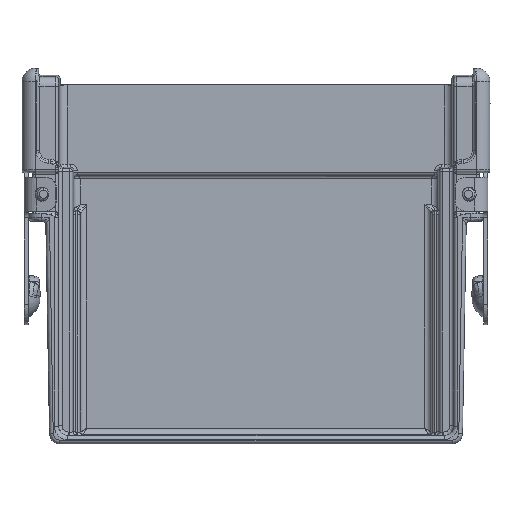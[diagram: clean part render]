
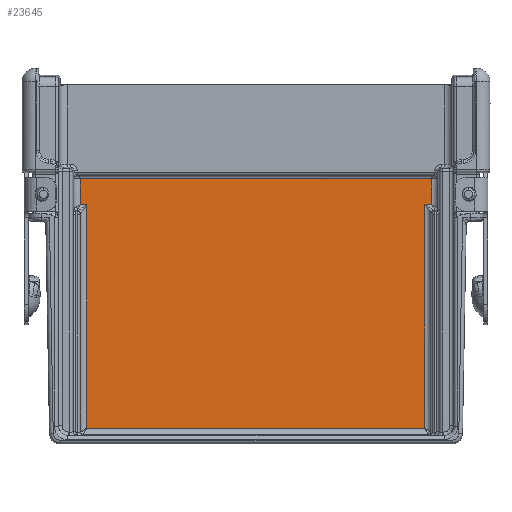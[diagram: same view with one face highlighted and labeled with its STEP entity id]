
A CAD part, left-side view. The second image highlights one B-rep face of the part: STEP entity #23645.
In plain terms, the highlighted planar face has unit normal (-1, 0, 0).
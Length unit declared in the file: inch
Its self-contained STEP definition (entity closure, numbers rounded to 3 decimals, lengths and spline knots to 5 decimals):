
#4342=CARTESIAN_POINT('',(0.363,1.30291,1.77165));
#4365=DIRECTION('',(0.,1.,0.));
#4366=VECTOR('',#4365,0.04906);
#4367=CARTESIAN_POINT('',(0.363,1.25385,1.77165));
#4368=LINE('',#4367,#4366);
#4369=CARTESIAN_POINT('',(0.363,1.25385,1.77165));
#4395=DIRECTION('',(0.,0.,1.));
#4396=VECTOR('',#4395,1.65796);
#4397=CARTESIAN_POINT('',(0.363,1.25385,0.11369));
#4398=LINE('',#4397,#4396);
#4407=DIRECTION('',(0.,0.,1.));
#4408=VECTOR('',#4407,0.19235);
#4409=CARTESIAN_POINT('',(0.363,1.30291,1.77165));
#4410=LINE('',#4409,#4408);
#7251=CARTESIAN_POINT('',(0.363,-1.25255,0.11369));
#7280=DIRECTION('',(0.,0.,-1.));
#7281=VECTOR('',#7280,1.65927);
#7282=CARTESIAN_POINT('',(0.363,-1.25255,
1.77295));
#7283=LINE('',#7282,#7281);
#7288=CARTESIAN_POINT('',(0.363,-1.25255,
1.77295));
#7318=DIRECTION('',(0.,1.,0.));
#7319=VECTOR('',#7318,0.05036);
#7320=CARTESIAN_POINT('',(0.363,-1.30291,1.77295));
#7321=LINE('',#7320,#7319);
#7332=CARTESIAN_POINT('',(0.363,-1.30291,1.77295));
#7351=DIRECTION('',(0.,0.,-1.));
#7352=VECTOR('',#7351,0.19104);
#7353=CARTESIAN_POINT('',(0.363,-1.30296,
1.964));
#7354=LINE('',#7353,#7352);
#7355=CARTESIAN_POINT('',(0.363,-1.30296,
1.964));
#7406=DIRECTION('',(0.,-1.,0.));
#7407=VECTOR('',#7406,2.60595);
#7408=CARTESIAN_POINT('',(0.363,1.30299,1.964));
#7409=LINE('',#7408,#7407);
#7749=DIRECTION('',(0.,1.,0.));
#7750=VECTOR('',#7749,2.5064);
#7751=CARTESIAN_POINT('',(0.363,-1.25255,0.11369));
#7752=LINE('',#7751,#7750);
#7945=CARTESIAN_POINT('',(0.363,1.25385,0.11369));
#14513=VERTEX_POINT('',#7355);
#14516=VERTEX_POINT('',#7251);
#14533=VERTEX_POINT('',#7332);
#14551=VERTEX_POINT('',#7288);
#14554=VERTEX_POINT('',#4369);
#14572=VERTEX_POINT('',#4342);
#14587=VERTEX_POINT('',#7945);
#14593=CARTESIAN_POINT('',(0.363,1.30299,
1.964));
#14594=VERTEX_POINT('',#14593);
#23624=CARTESIAN_POINT('',(0.363,0.,0.));
#23625=DIRECTION('',(-1.,0.,0.));
#23626=DIRECTION('',(0.,0.,1.));
#23627=AXIS2_PLACEMENT_3D('',#23624,#23625,#23626);
#23628=PLANE('',#23627);
#23630=ORIENTED_EDGE('',*,*,#23629,.T.);
#23632=ORIENTED_EDGE('',*,*,#23631,.T.);
#23634=ORIENTED_EDGE('',*,*,#23633,.T.);
#23636=ORIENTED_EDGE('',*,*,#23635,.T.);
#23638=ORIENTED_EDGE('',*,*,#23637,.T.);
#23640=ORIENTED_EDGE('',*,*,#23639,.T.);
#23641=ORIENTED_EDGE('',*,*,#23615,.T.);
#23642=ORIENTED_EDGE('',*,*,#23547,.T.);
#23643=EDGE_LOOP('',(#23630,#23632,#23634,#23636,#23638,#23640,#23641,#23642));
#23644=FACE_OUTER_BOUND('',#23643,.F.);
#23645=ADVANCED_FACE('',(#23644),#23628,.T.);
#23547=EDGE_CURVE('',#14554,#14572,#4368,.T.);
#23615=EDGE_CURVE('',#14587,#14554,#4398,.T.);
#23629=EDGE_CURVE('',#14572,#14594,#4410,.T.);
#23631=EDGE_CURVE('',#14594,#14513,#7409,.T.);
#23633=EDGE_CURVE('',#14513,#14533,#7354,.T.);
#23635=EDGE_CURVE('',#14533,#14551,#7321,.T.);
#23637=EDGE_CURVE('',#14551,#14516,#7283,.T.);
#23639=EDGE_CURVE('',#14516,#14587,#7752,.T.);
